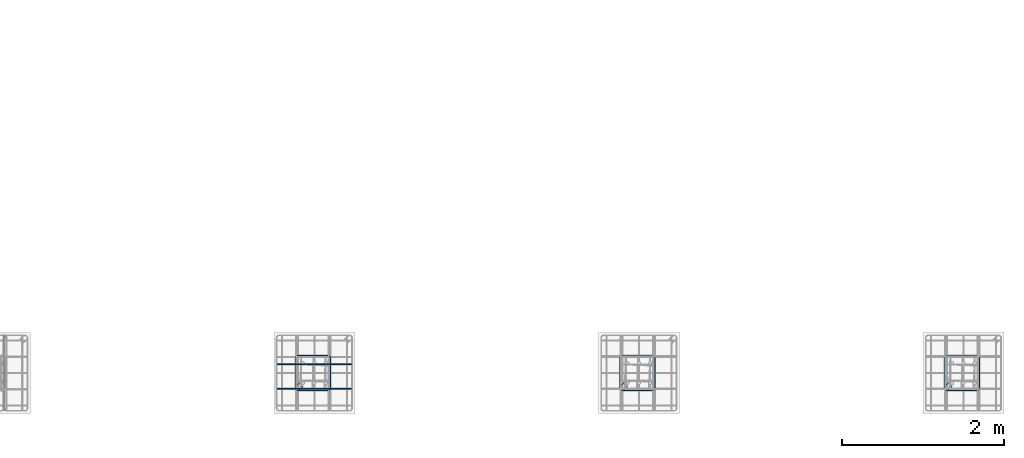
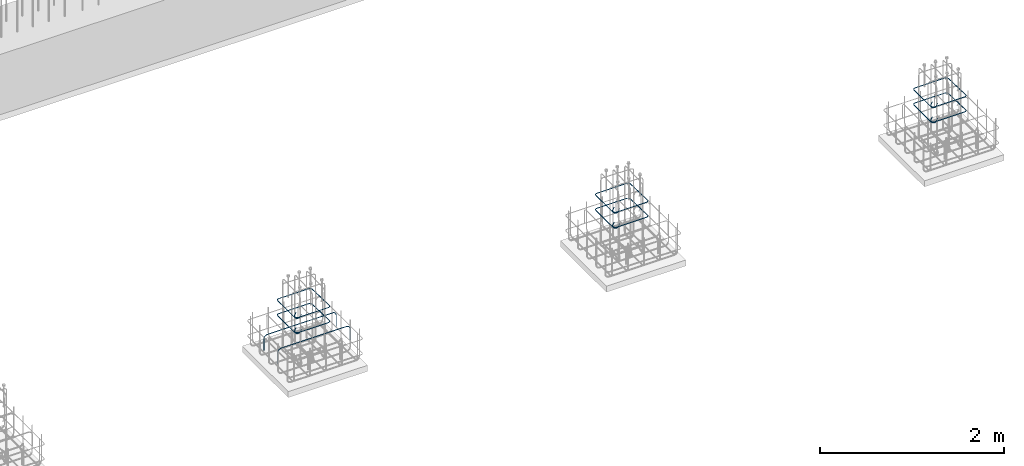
# One storey, part 12 of 12: 4 reinforcing bars.
"""IFC4X3_ADD2 building model written with IfcOpenShell, lengths in millimetres."""

from ifc_helpers import new_model, entity, si_unit, converted_unit, derived_unit, direction, frame, origin, place, context, subcontext, project, spatial, material, type_object, element, save


model = new_model("IFC4X3_ADD2")

# Units and contexts
model_context = context("Model", 3, precision=0.01, world=origin(), true_north=direction((6.123233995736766e-17, 1.0)))
plan_context = context("Plan", 3, precision=0.01, world=origin(), true_north=direction((6.123233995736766e-17, 1.0)))
body_context = subcontext(model_context, "Body", "Model", "MODEL_VIEW")
ifc_project = project(units=[si_unit("LENGTHUNIT", "METRE", prefix="MILLI"), converted_unit("PLANEANGLEUNIT", "DEGREE", entity("IfcPlaneAngleMeasure", 0.017453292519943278), si_unit("PLANEANGLEUNIT", "RADIAN"), dimensions=[0, 0, 0, 0, 0, 0, 0]), si_unit("AREAUNIT", "SQUARE_METRE"), si_unit("VOLUMEUNIT", "CUBIC_METRE"), derived_unit("THERMALTRANSMITTANCEUNIT", [(si_unit("MASSUNIT", "GRAM", prefix="KILO"), 1), (si_unit("THERMODYNAMICTEMPERATUREUNIT", "KELVIN"), -1), (si_unit("TIMEUNIT", "SECOND"), -3)]), derived_unit("USERDEFINED", [(si_unit("MASSUNIT", "GRAM", prefix="KILO"), 1), (si_unit("THERMODYNAMICTEMPERATUREUNIT", "KELVIN"), -1), (si_unit("TIMEUNIT", "SECOND"), -2)]), derived_unit("THERMALRESISTANCEUNIT", [(si_unit("MASSUNIT", "GRAM", prefix="KILO"), -1), (si_unit("TIMEUNIT", "SECOND"), 3), (si_unit("THERMODYNAMICTEMPERATUREUNIT", "KELVIN"), 1)]), si_unit("MASSUNIT", "GRAM", prefix="KILO"), derived_unit("MOMENTOFINERTIAUNIT", [(si_unit("LENGTHUNIT", "METRE"), 4)]), derived_unit("LINEARFORCEUNIT", [(si_unit("MASSUNIT", "GRAM", prefix="KILO"), 1), (si_unit("TIMEUNIT", "SECOND"), -2)]), derived_unit("WARPINGCONSTANTUNIT", [(si_unit("LENGTHUNIT", "METRE"), 6)]), si_unit("PRESSUREUNIT", "PASCAL"), derived_unit("MASSDENSITYUNIT", [(si_unit("MASSUNIT", "GRAM", prefix="KILO"), 1), (si_unit("LENGTHUNIT", "METRE"), -3)]), derived_unit("MODULUSOFELASTICITYUNIT", [(si_unit("MASSUNIT", "GRAM", prefix="KILO"), 1), (si_unit("TIMEUNIT", "SECOND"), -2), (si_unit("LENGTHUNIT", "METRE"), -1)]), derived_unit("THERMALEXPANSIONCOEFFICIENTUNIT", [(si_unit("THERMODYNAMICTEMPERATUREUNIT", "KELVIN"), -1)]), derived_unit("VAPORPERMEABILITYUNIT", [(si_unit("LENGTHUNIT", "METRE"), -1), (si_unit("TIMEUNIT", "SECOND"), 1)]), derived_unit("USERDEFINED", [(si_unit("MASSUNIT", "GRAM", prefix="KILO"), 1), (si_unit("TIMEUNIT", "SECOND"), -3), (si_unit("LENGTHUNIT", "METRE"), 3), (si_unit("ELECTRICCURRENTUNIT", "AMPERE"), -2)]), derived_unit("SPECIFICHEATCAPACITYUNIT", [(si_unit("THERMODYNAMICTEMPERATUREUNIT", "KELVIN"), -1), (si_unit("TIMEUNIT", "SECOND"), -2), (si_unit("LENGTHUNIT", "METRE"), 2)]), derived_unit("THERMALCONDUCTANCEUNIT", [(si_unit("MASSUNIT", "GRAM", prefix="KILO"), 1), (si_unit("THERMODYNAMICTEMPERATUREUNIT", "KELVIN"), -1), (si_unit("TIMEUNIT", "SECOND"), -3), (si_unit("LENGTHUNIT", "METRE"), 1)])], contexts=[model_context, plan_context])

# Site, building, storey
site_placement = place(None, origin())
site = spatial("IfcSite", under=ifc_project, at=site_placement, Name="Default", CompositionType="ELEMENT")
building_placement = place(site_placement, origin())
building = spatial("IfcBuilding", under=site, at=building_placement, Name="Complex structure", CompositionType="ELEMENT")
storey_placement = place(building_placement, frame((0.0, 0.0, -1200.0)))
storey = spatial("IfcBuildingStorey", under=building, at=storey_placement, Name="Level -03", CompositionType="ELEMENT", Elevation=-1200.0)

# Reinforcing bars
ifc_material = material(Name="Steel Rebar - B500A, B or C", Category="Unassigned")
reinforcing_bar_type = type_object("IfcReinforcingBarType", Name="Rebar Bar:10mm", PredefinedType="NOTDEFINED")
reinforcing_bar_1_placement = place(storey_placement, origin())
element("IfcReinforcingBar", 1, at=reinforcing_bar_1_placement, inside=storey, type_object=reinforcing_bar_type, material=ifc_material, Name="Rebar Bar:10mm : Shape 21", ObjectType="Rebar Bar:10mm", context=body_context, shape_type="AdvancedSweptSolid", body=[
    entity("IfcSweptDiskSolid", entity("IfcCompositeCurve", [entity("IfcCompositeCurveSegment", "CONTINUOUS", True, entity("IfcPolyline", [entity("IfcCartesianPoint", [-8691.348637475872, -1476.1953828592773, 167.0]), entity("IfcCartesianPoint", [-8691.348637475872, -1476.1953828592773, 316.0])])), entity("IfcCompositeCurveSegment", "CONTINUOUS", True, entity("IfcTrimmedCurve", entity("IfcCircle", entity("IfcAxis2Placement3D", entity("IfcCartesianPoint", [-8736.34863106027, -1476.1713536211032, 316.0]), entity("IfcDirection", [-0.0005339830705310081, -0.99999985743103, 0.0]), entity("IfcDirection", [0.0, 0.0, 1.0])), 45.0), [entity("IfcParameterValue", 269.9999999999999)], [entity("IfcParameterValue", 360.00000000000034)], True, "PARAMETER")), entity("IfcCompositeCurveSegment", "CONTINUOUS", True, entity("IfcPolyline", [entity("IfcCartesianPoint", [-8736.34863106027, -1476.1713536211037, 361.0]), entity("IfcCartesianPoint", [-9554.348255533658, -1475.73455560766, 361.0])])), entity("IfcCompositeCurveSegment", "CONTINUOUS", True, entity("IfcTrimmedCurve", entity("IfcCircle", entity("IfcAxis2Placement3D", entity("IfcCartesianPoint", [-9554.348255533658, -1475.73455560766, 316.0]), entity("IfcDirection", [-0.0005339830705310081, -0.99999985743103, 0.0]), entity("IfcDirection", [-0.99999985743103, 0.0005339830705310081, 0.0])), 45.0), [entity("IfcParameterValue", 269.9999999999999)], [entity("IfcParameterValue", 360.00000000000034)], True, "PARAMETER")), entity("IfcCompositeCurveSegment", "CONTINUOUS", True, entity("IfcPolyline", [entity("IfcCartesianPoint", [-9599.348249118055, -1475.710526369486, 316.0]), entity("IfcCartesianPoint", [-9599.348249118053, -1475.710526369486, 167.0])]))], False), 5.0, None, 0.0, 183.00000000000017),
    entity("IfcSweptDiskSolid", entity("IfcCompositeCurve", [entity("IfcCompositeCurveSegment", "CONTINUOUS", True, entity("IfcPolyline", [entity("IfcCartesianPoint", [-8691.188442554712, -1176.1954256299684, 167.0]), entity("IfcCartesianPoint", [-8691.188442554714, -1176.1954256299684, 316.0])])), entity("IfcCompositeCurveSegment", "CONTINUOUS", True, entity("IfcTrimmedCurve", entity("IfcCircle", entity("IfcAxis2Placement3D", entity("IfcCartesianPoint", [-8736.18843613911, -1176.1713963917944, 316.0]), entity("IfcDirection", [-0.0005339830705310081, -0.99999985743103, 0.0]), entity("IfcDirection", [0.0, 0.0, 1.0])), 45.0), [entity("IfcParameterValue", 269.9999999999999)], [entity("IfcParameterValue", 360.00000000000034)], True, "PARAMETER")), entity("IfcCompositeCurveSegment", "CONTINUOUS", True, entity("IfcPolyline", [entity("IfcCartesianPoint", [-8736.18843613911, -1176.1713963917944, 361.0]), entity("IfcCartesianPoint", [-9554.188060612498, -1175.7345983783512, 361.0])])), entity("IfcCompositeCurveSegment", "CONTINUOUS", True, entity("IfcTrimmedCurve", entity("IfcCircle", entity("IfcAxis2Placement3D", entity("IfcCartesianPoint", [-9554.188060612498, -1175.7345983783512, 316.0]), entity("IfcDirection", [-0.0005339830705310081, -0.99999985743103, 0.0]), entity("IfcDirection", [-0.99999985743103, 0.0005339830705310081, 0.0])), 45.0), [entity("IfcParameterValue", 269.9999999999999)], [entity("IfcParameterValue", 360.00000000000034)], True, "PARAMETER")), entity("IfcCompositeCurveSegment", "CONTINUOUS", True, entity("IfcPolyline", [entity("IfcCartesianPoint", [-9599.188054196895, -1175.710569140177, 316.0]), entity("IfcCartesianPoint", [-9599.188054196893, -1175.710569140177, 167.0])]))], False), 5.0, None, 0.0, 183.00000000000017),
])
reinforcing_bar_2_placement = place(storey_placement, origin())
ifc_direction_1 = entity("IfcDirection", [0.0, 0.0, -1.0])
ifc_direction_2 = entity("IfcDirection", [0.0, 0.0, -1.0])
element("IfcReinforcingBar", 2, at=reinforcing_bar_2_placement, inside=storey, type_object=reinforcing_bar_type, material=ifc_material, Name="Rebar Bar:10mm : Shape 52", ObjectType="Rebar Bar:10mm", context=body_context, shape_type="AdvancedSweptSolid", body=[
    entity("IfcSweptDiskSolid", entity("IfcCompositeCurve", [entity("IfcCompositeCurveSegment", "CONTINUOUS", True, entity("IfcPolyline", [entity("IfcCartesianPoint", [-9286.518887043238, -1446.6535005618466, 700.0]), entity("IfcCartesianPoint", [-9328.94529391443, -1489.0799074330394, 700.0])])), entity("IfcCompositeCurveSegment", "CONTINUOUS", True, entity("IfcTrimmedCurve", entity("IfcCircle", entity("IfcAxis2Placement3D", entity("IfcCartesianPoint", [-9350.158497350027, -1467.8667039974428, 700.0]), ifc_direction_1, entity("IfcDirection", [-0.7071067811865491, -0.7071067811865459, 0.0])), 30.000000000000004), [entity("IfcParameterValue", 269.9999999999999)], [entity("IfcParameterValue", 44.99999999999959)], True, "PARAMETER")), entity("IfcCompositeCurveSegment", "CONTINUOUS", True, entity("IfcPolyline", [entity("IfcCartesianPoint", [-9380.158497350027, -1467.8667039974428, 700.0]), entity("IfcCartesianPoint", [-9380.158497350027, -1097.8667039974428, 700.0])])), entity("IfcCompositeCurveSegment", "CONTINUOUS", True, entity("IfcTrimmedCurve", entity("IfcCircle", entity("IfcAxis2Placement3D", entity("IfcCartesianPoint", [-9350.158497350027, -1097.8667039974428, 700.0]), ifc_direction_1, entity("IfcDirection", [0.0, 1.0, 0.0])), 30.000000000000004), [entity("IfcParameterValue", 269.9999999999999)], [entity("IfcParameterValue", 360.00000000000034)], True, "PARAMETER")), entity("IfcCompositeCurveSegment", "CONTINUOUS", True, entity("IfcPolyline", [entity("IfcCartesianPoint", [-9350.158497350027, -1067.8667039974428, 700.0]), entity("IfcCartesianPoint", [-8976.521550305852, -1067.8667039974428, 700.0])])), entity("IfcCompositeCurveSegment", "CONTINUOUS", True, entity("IfcTrimmedCurve", entity("IfcCircle", entity("IfcAxis2Placement3D", entity("IfcCartesianPoint", [-8976.521550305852, -1097.8585947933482, 700.697485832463]), entity("IfcDirection", [0.0, -0.023249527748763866, -0.9997296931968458]), entity("IfcDirection", [1.0, 0.0, 0.0])), 30.000000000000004), [entity("IfcParameterValue", 269.9999999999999)], [entity("IfcParameterValue", 360.00000000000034)], True, "PARAMETER")), entity("IfcCompositeCurveSegment", "CONTINUOUS", True, entity("IfcPolyline", [entity("IfcCartesianPoint", [-8946.521550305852, -1097.8585947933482, 700.697485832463]), entity("IfcCartesianPoint", [-8946.521550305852, -1467.8748132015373, 709.3025141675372])])), entity("IfcCompositeCurveSegment", "CONTINUOUS", True, entity("IfcTrimmedCurve", entity("IfcCircle", entity("IfcAxis2Placement3D", entity("IfcCartesianPoint", [-8976.521550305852, -1467.8748132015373, 709.3025141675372]), entity("IfcDirection", [0.0, -0.023249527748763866, -0.9997296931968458]), entity("IfcDirection", [0.0, -0.9997296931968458, 0.023249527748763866])), 30.000000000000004), [entity("IfcParameterValue", 269.9999999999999)], [entity("IfcParameterValue", 360.00000000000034)], True, "PARAMETER")), entity("IfcCompositeCurveSegment", "CONTINUOUS", True, entity("IfcPolyline", [entity("IfcCartesianPoint", [-8976.521550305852, -1497.8667039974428, 710.0]), entity("IfcCartesianPoint", [-9350.158497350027, -1497.8667039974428, 710.0])])), entity("IfcCompositeCurveSegment", "CONTINUOUS", True, entity("IfcTrimmedCurve", entity("IfcCircle", entity("IfcAxis2Placement3D", entity("IfcCartesianPoint", [-9350.158497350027, -1467.8667039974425, 710.0]), ifc_direction_1, entity("IfcDirection", [-1.0, 0.0, 0.0])), 30.000000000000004), [entity("IfcParameterValue", 269.9999999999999)], [entity("IfcParameterValue", 44.99999999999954)], True, "PARAMETER")), entity("IfcCompositeCurveSegment", "CONTINUOUS", True, entity("IfcPolyline", [entity("IfcCartesianPoint", [-9371.371700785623, -1446.6535005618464, 710.0]), entity("IfcCartesianPoint", [-9328.94529391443, -1404.2270936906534, 710.0])]))], False), 5.0, None, 0.0, 546.0000000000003),
    entity("IfcSweptDiskSolid", entity("IfcCompositeCurve", [entity("IfcCompositeCurveSegment", "CONTINUOUS", True, entity("IfcPolyline", [entity("IfcCartesianPoint", [-9286.518887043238, -1446.6535005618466, 500.0]), entity("IfcCartesianPoint", [-9328.94529391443, -1489.0799074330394, 500.0])])), entity("IfcCompositeCurveSegment", "CONTINUOUS", True, entity("IfcTrimmedCurve", entity("IfcCircle", entity("IfcAxis2Placement3D", entity("IfcCartesianPoint", [-9350.158497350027, -1467.8667039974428, 500.0]), ifc_direction_2, entity("IfcDirection", [-0.7071067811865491, -0.7071067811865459, 0.0])), 30.000000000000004), [entity("IfcParameterValue", 269.9999999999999)], [entity("IfcParameterValue", 44.99999999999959)], True, "PARAMETER")), entity("IfcCompositeCurveSegment", "CONTINUOUS", True, entity("IfcPolyline", [entity("IfcCartesianPoint", [-9380.158497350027, -1467.8667039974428, 500.0]), entity("IfcCartesianPoint", [-9380.158497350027, -1097.8667039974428, 500.0])])), entity("IfcCompositeCurveSegment", "CONTINUOUS", True, entity("IfcTrimmedCurve", entity("IfcCircle", entity("IfcAxis2Placement3D", entity("IfcCartesianPoint", [-9350.158497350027, -1097.8667039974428, 500.0]), ifc_direction_2, entity("IfcDirection", [0.0, 1.0, 0.0])), 30.000000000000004), [entity("IfcParameterValue", 269.9999999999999)], [entity("IfcParameterValue", 360.00000000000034)], True, "PARAMETER")), entity("IfcCompositeCurveSegment", "CONTINUOUS", True, entity("IfcPolyline", [entity("IfcCartesianPoint", [-9350.158497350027, -1067.8667039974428, 500.0]), entity("IfcCartesianPoint", [-8976.521550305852, -1067.8667039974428, 500.0])])), entity("IfcCompositeCurveSegment", "CONTINUOUS", True, entity("IfcTrimmedCurve", entity("IfcCircle", entity("IfcAxis2Placement3D", entity("IfcCartesianPoint", [-8976.521550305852, -1097.8585947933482, 500.69748583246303]), entity("IfcDirection", [0.0, -0.023249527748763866, -0.9997296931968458]), entity("IfcDirection", [1.0, 0.0, 0.0])), 30.000000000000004), [entity("IfcParameterValue", 269.9999999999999)], [entity("IfcParameterValue", 360.00000000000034)], True, "PARAMETER")), entity("IfcCompositeCurveSegment", "CONTINUOUS", True, entity("IfcPolyline", [entity("IfcCartesianPoint", [-8946.521550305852, -1097.8585947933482, 500.69748583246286]), entity("IfcCartesianPoint", [-8946.521550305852, -1467.8748132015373, 509.3025141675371])])), entity("IfcCompositeCurveSegment", "CONTINUOUS", True, entity("IfcTrimmedCurve", entity("IfcCircle", entity("IfcAxis2Placement3D", entity("IfcCartesianPoint", [-8976.521550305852, -1467.8748132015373, 509.3025141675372]), entity("IfcDirection", [0.0, -0.023249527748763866, -0.9997296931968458]), entity("IfcDirection", [0.0, -0.9997296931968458, 0.023249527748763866])), 30.000000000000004), [entity("IfcParameterValue", 269.9999999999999)], [entity("IfcParameterValue", 360.00000000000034)], True, "PARAMETER")), entity("IfcCompositeCurveSegment", "CONTINUOUS", True, entity("IfcPolyline", [entity("IfcCartesianPoint", [-8976.521550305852, -1497.8667039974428, 510.0]), entity("IfcCartesianPoint", [-9350.158497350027, -1497.8667039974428, 510.0])])), entity("IfcCompositeCurveSegment", "CONTINUOUS", True, entity("IfcTrimmedCurve", entity("IfcCircle", entity("IfcAxis2Placement3D", entity("IfcCartesianPoint", [-9350.158497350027, -1467.8667039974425, 510.0]), ifc_direction_2, entity("IfcDirection", [-1.0, 0.0, 0.0])), 30.000000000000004), [entity("IfcParameterValue", 269.9999999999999)], [entity("IfcParameterValue", 44.99999999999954)], True, "PARAMETER")), entity("IfcCompositeCurveSegment", "CONTINUOUS", True, entity("IfcPolyline", [entity("IfcCartesianPoint", [-9371.371700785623, -1446.6535005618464, 510.0]), entity("IfcCartesianPoint", [-9328.94529391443, -1404.2270936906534, 510.0])]))], False), 5.0, None, 0.0, 546.0000000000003),
])
reinforcing_bar_3_placement = place(storey_placement, origin())
ifc_direction_3 = entity("IfcDirection", [0.0, 0.0, -1.0])
ifc_direction_4 = entity("IfcDirection", [0.0, 0.0, -1.0])
element("IfcReinforcingBar", 3, at=reinforcing_bar_3_placement, inside=storey, type_object=reinforcing_bar_type, material=ifc_material, Name="Rebar Bar:10mm : Shape 52", ObjectType="Rebar Bar:10mm", context=body_context, shape_type="AdvancedSweptSolid", body=[
    entity("IfcSweptDiskSolid", entity("IfcCompositeCurve", [entity("IfcCompositeCurveSegment", "CONTINUOUS", True, entity("IfcPolyline", [entity("IfcCartesianPoint", [-5286.518887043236, -1446.6535005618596, 700.0]), entity("IfcCartesianPoint", [-5328.9452939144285, -1489.0799074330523, 700.0])])), entity("IfcCompositeCurveSegment", "CONTINUOUS", True, entity("IfcTrimmedCurve", entity("IfcCircle", entity("IfcAxis2Placement3D", entity("IfcCartesianPoint", [-5350.158497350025, -1467.8667039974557, 700.0]), ifc_direction_3, entity("IfcDirection", [-0.7071067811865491, -0.7071067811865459, 0.0])), 30.000000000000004), [entity("IfcParameterValue", 269.9999999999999)], [entity("IfcParameterValue", 44.99999999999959)], True, "PARAMETER")), entity("IfcCompositeCurveSegment", "CONTINUOUS", True, entity("IfcPolyline", [entity("IfcCartesianPoint", [-5380.158497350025, -1467.8667039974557, 700.0]), entity("IfcCartesianPoint", [-5380.158497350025, -1097.8667039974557, 700.0])])), entity("IfcCompositeCurveSegment", "CONTINUOUS", True, entity("IfcTrimmedCurve", entity("IfcCircle", entity("IfcAxis2Placement3D", entity("IfcCartesianPoint", [-5350.158497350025, -1097.8667039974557, 700.0]), ifc_direction_3, entity("IfcDirection", [0.0, 1.0, 0.0])), 30.000000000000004), [entity("IfcParameterValue", 269.9999999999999)], [entity("IfcParameterValue", 360.00000000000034)], True, "PARAMETER")), entity("IfcCompositeCurveSegment", "CONTINUOUS", True, entity("IfcPolyline", [entity("IfcCartesianPoint", [-5350.158497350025, -1067.8667039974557, 700.0]), entity("IfcCartesianPoint", [-4976.521550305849, -1067.8667039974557, 700.0])])), entity("IfcCompositeCurveSegment", "CONTINUOUS", True, entity("IfcTrimmedCurve", entity("IfcCircle", entity("IfcAxis2Placement3D", entity("IfcCartesianPoint", [-4976.521550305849, -1097.8585947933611, 700.697485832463]), entity("IfcDirection", [0.0, -0.023249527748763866, -0.9997296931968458]), entity("IfcDirection", [1.0, 0.0, 0.0])), 30.000000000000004), [entity("IfcParameterValue", 269.9999999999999)], [entity("IfcParameterValue", 360.00000000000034)], True, "PARAMETER")), entity("IfcCompositeCurveSegment", "CONTINUOUS", True, entity("IfcPolyline", [entity("IfcCartesianPoint", [-4946.521550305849, -1097.8585947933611, 700.697485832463]), entity("IfcCartesianPoint", [-4946.521550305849, -1467.8748132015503, 709.3025141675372])])), entity("IfcCompositeCurveSegment", "CONTINUOUS", True, entity("IfcTrimmedCurve", entity("IfcCircle", entity("IfcAxis2Placement3D", entity("IfcCartesianPoint", [-4976.521550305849, -1467.8748132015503, 709.3025141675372]), entity("IfcDirection", [0.0, -0.023249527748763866, -0.9997296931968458]), entity("IfcDirection", [0.0, -0.9997296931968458, 0.023249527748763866])), 30.000000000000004), [entity("IfcParameterValue", 269.9999999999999)], [entity("IfcParameterValue", 360.00000000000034)], True, "PARAMETER")), entity("IfcCompositeCurveSegment", "CONTINUOUS", True, entity("IfcPolyline", [entity("IfcCartesianPoint", [-4976.521550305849, -1497.8667039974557, 710.0]), entity("IfcCartesianPoint", [-5350.158497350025, -1497.8667039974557, 710.0])])), entity("IfcCompositeCurveSegment", "CONTINUOUS", True, entity("IfcTrimmedCurve", entity("IfcCircle", entity("IfcAxis2Placement3D", entity("IfcCartesianPoint", [-5350.158497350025, -1467.8667039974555, 710.0]), ifc_direction_3, entity("IfcDirection", [-1.0, 0.0, 0.0])), 30.000000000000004), [entity("IfcParameterValue", 269.9999999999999)], [entity("IfcParameterValue", 44.99999999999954)], True, "PARAMETER")), entity("IfcCompositeCurveSegment", "CONTINUOUS", True, entity("IfcPolyline", [entity("IfcCartesianPoint", [-5371.37170078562, -1446.6535005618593, 710.0]), entity("IfcCartesianPoint", [-5328.9452939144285, -1404.2270936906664, 710.0])]))], False), 5.0, None, 0.0, 546.0000000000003),
    entity("IfcSweptDiskSolid", entity("IfcCompositeCurve", [entity("IfcCompositeCurveSegment", "CONTINUOUS", True, entity("IfcPolyline", [entity("IfcCartesianPoint", [-5286.518887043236, -1446.6535005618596, 500.0]), entity("IfcCartesianPoint", [-5328.9452939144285, -1489.0799074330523, 500.0])])), entity("IfcCompositeCurveSegment", "CONTINUOUS", True, entity("IfcTrimmedCurve", entity("IfcCircle", entity("IfcAxis2Placement3D", entity("IfcCartesianPoint", [-5350.158497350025, -1467.8667039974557, 500.0]), ifc_direction_4, entity("IfcDirection", [-0.7071067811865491, -0.7071067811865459, 0.0])), 30.000000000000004), [entity("IfcParameterValue", 269.9999999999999)], [entity("IfcParameterValue", 44.99999999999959)], True, "PARAMETER")), entity("IfcCompositeCurveSegment", "CONTINUOUS", True, entity("IfcPolyline", [entity("IfcCartesianPoint", [-5380.158497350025, -1467.8667039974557, 500.0]), entity("IfcCartesianPoint", [-5380.158497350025, -1097.8667039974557, 500.0])])), entity("IfcCompositeCurveSegment", "CONTINUOUS", True, entity("IfcTrimmedCurve", entity("IfcCircle", entity("IfcAxis2Placement3D", entity("IfcCartesianPoint", [-5350.158497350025, -1097.8667039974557, 500.0]), ifc_direction_4, entity("IfcDirection", [0.0, 1.0, 0.0])), 30.000000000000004), [entity("IfcParameterValue", 269.9999999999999)], [entity("IfcParameterValue", 360.00000000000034)], True, "PARAMETER")), entity("IfcCompositeCurveSegment", "CONTINUOUS", True, entity("IfcPolyline", [entity("IfcCartesianPoint", [-5350.158497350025, -1067.8667039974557, 500.0]), entity("IfcCartesianPoint", [-4976.521550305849, -1067.8667039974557, 500.0])])), entity("IfcCompositeCurveSegment", "CONTINUOUS", True, entity("IfcTrimmedCurve", entity("IfcCircle", entity("IfcAxis2Placement3D", entity("IfcCartesianPoint", [-4976.521550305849, -1097.8585947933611, 500.69748583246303]), entity("IfcDirection", [0.0, -0.023249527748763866, -0.9997296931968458]), entity("IfcDirection", [1.0, 0.0, 0.0])), 30.000000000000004), [entity("IfcParameterValue", 269.9999999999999)], [entity("IfcParameterValue", 360.00000000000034)], True, "PARAMETER")), entity("IfcCompositeCurveSegment", "CONTINUOUS", True, entity("IfcPolyline", [entity("IfcCartesianPoint", [-4946.521550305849, -1097.8585947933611, 500.69748583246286]), entity("IfcCartesianPoint", [-4946.521550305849, -1467.8748132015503, 509.3025141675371])])), entity("IfcCompositeCurveSegment", "CONTINUOUS", True, entity("IfcTrimmedCurve", entity("IfcCircle", entity("IfcAxis2Placement3D", entity("IfcCartesianPoint", [-4976.521550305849, -1467.8748132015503, 509.3025141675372]), entity("IfcDirection", [0.0, -0.023249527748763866, -0.9997296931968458]), entity("IfcDirection", [0.0, -0.9997296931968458, 0.023249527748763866])), 30.000000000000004), [entity("IfcParameterValue", 269.9999999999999)], [entity("IfcParameterValue", 360.00000000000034)], True, "PARAMETER")), entity("IfcCompositeCurveSegment", "CONTINUOUS", True, entity("IfcPolyline", [entity("IfcCartesianPoint", [-4976.521550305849, -1497.8667039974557, 510.0]), entity("IfcCartesianPoint", [-5350.158497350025, -1497.8667039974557, 510.0])])), entity("IfcCompositeCurveSegment", "CONTINUOUS", True, entity("IfcTrimmedCurve", entity("IfcCircle", entity("IfcAxis2Placement3D", entity("IfcCartesianPoint", [-5350.158497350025, -1467.8667039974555, 510.0]), ifc_direction_4, entity("IfcDirection", [-1.0, 0.0, 0.0])), 30.000000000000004), [entity("IfcParameterValue", 269.9999999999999)], [entity("IfcParameterValue", 44.99999999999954)], True, "PARAMETER")), entity("IfcCompositeCurveSegment", "CONTINUOUS", True, entity("IfcPolyline", [entity("IfcCartesianPoint", [-5371.37170078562, -1446.6535005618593, 510.0]), entity("IfcCartesianPoint", [-5328.9452939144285, -1404.2270936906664, 510.0])]))], False), 5.0, None, 0.0, 546.0000000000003),
])
reinforcing_bar_4_placement = place(storey_placement, origin())
ifc_direction_5 = entity("IfcDirection", [0.0, 0.0, -1.0])
ifc_direction_6 = entity("IfcDirection", [0.0, 0.0, -1.0])
element("IfcReinforcingBar", 4, at=reinforcing_bar_4_placement, inside=storey, type_object=reinforcing_bar_type, material=ifc_material, Name="Rebar Bar:10mm : Shape 52", ObjectType="Rebar Bar:10mm", context=body_context, shape_type="AdvancedSweptSolid", body=[
    entity("IfcSweptDiskSolid", entity("IfcCompositeCurve", [entity("IfcCompositeCurveSegment", "CONTINUOUS", True, entity("IfcPolyline", [entity("IfcCartesianPoint", [-1286.5188870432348, -1446.6535005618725, 700.0]), entity("IfcCartesianPoint", [-1328.9452939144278, -1489.0799074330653, 700.0])])), entity("IfcCompositeCurveSegment", "CONTINUOUS", True, entity("IfcTrimmedCurve", entity("IfcCircle", entity("IfcAxis2Placement3D", entity("IfcCartesianPoint", [-1350.1584973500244, -1467.8667039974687, 700.0]), ifc_direction_5, entity("IfcDirection", [-0.7071067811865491, -0.7071067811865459, 0.0])), 30.000000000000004), [entity("IfcParameterValue", 269.9999999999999)], [entity("IfcParameterValue", 44.99999999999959)], True, "PARAMETER")), entity("IfcCompositeCurveSegment", "CONTINUOUS", True, entity("IfcPolyline", [entity("IfcCartesianPoint", [-1380.1584973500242, -1467.8667039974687, 700.0]), entity("IfcCartesianPoint", [-1380.1584973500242, -1097.8667039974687, 700.0])])), entity("IfcCompositeCurveSegment", "CONTINUOUS", True, entity("IfcTrimmedCurve", entity("IfcCircle", entity("IfcAxis2Placement3D", entity("IfcCartesianPoint", [-1350.1584973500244, -1097.8667039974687, 700.0]), ifc_direction_5, entity("IfcDirection", [0.0, 1.0, 0.0])), 30.000000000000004), [entity("IfcParameterValue", 269.9999999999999)], [entity("IfcParameterValue", 360.00000000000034)], True, "PARAMETER")), entity("IfcCompositeCurveSegment", "CONTINUOUS", True, entity("IfcPolyline", [entity("IfcCartesianPoint", [-1350.1584973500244, -1067.8667039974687, 700.0]), entity("IfcCartesianPoint", [-976.5215503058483, -1067.8667039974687, 700.0])])), entity("IfcCompositeCurveSegment", "CONTINUOUS", True, entity("IfcTrimmedCurve", entity("IfcCircle", entity("IfcAxis2Placement3D", entity("IfcCartesianPoint", [-976.5215503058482, -1097.858594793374, 700.697485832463]), entity("IfcDirection", [0.0, -0.023249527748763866, -0.9997296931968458]), entity("IfcDirection", [1.0, 0.0, 0.0])), 30.000000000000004), [entity("IfcParameterValue", 269.9999999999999)], [entity("IfcParameterValue", 360.00000000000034)], True, "PARAMETER")), entity("IfcCompositeCurveSegment", "CONTINUOUS", True, entity("IfcPolyline", [entity("IfcCartesianPoint", [-946.5215503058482, -1097.858594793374, 700.697485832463]), entity("IfcCartesianPoint", [-946.5215503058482, -1467.8748132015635, 709.3025141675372])])), entity("IfcCompositeCurveSegment", "CONTINUOUS", True, entity("IfcTrimmedCurve", entity("IfcCircle", entity("IfcAxis2Placement3D", entity("IfcCartesianPoint", [-976.5215503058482, -1467.8748132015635, 709.3025141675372]), entity("IfcDirection", [0.0, -0.023249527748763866, -0.9997296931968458]), entity("IfcDirection", [0.0, -0.9997296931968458, 0.023249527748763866])), 30.000000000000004), [entity("IfcParameterValue", 269.9999999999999)], [entity("IfcParameterValue", 360.00000000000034)], True, "PARAMETER")), entity("IfcCompositeCurveSegment", "CONTINUOUS", True, entity("IfcPolyline", [entity("IfcCartesianPoint", [-976.5215503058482, -1497.8667039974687, 710.0]), entity("IfcCartesianPoint", [-1350.1584973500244, -1497.8667039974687, 710.0])])), entity("IfcCompositeCurveSegment", "CONTINUOUS", True, entity("IfcTrimmedCurve", entity("IfcCircle", entity("IfcAxis2Placement3D", entity("IfcCartesianPoint", [-1350.1584973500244, -1467.8667039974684, 710.0]), ifc_direction_5, entity("IfcDirection", [-1.0, 0.0, 0.0])), 30.000000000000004), [entity("IfcParameterValue", 269.9999999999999)], [entity("IfcParameterValue", 44.99999999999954)], True, "PARAMETER")), entity("IfcCompositeCurveSegment", "CONTINUOUS", True, entity("IfcPolyline", [entity("IfcCartesianPoint", [-1371.3717007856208, -1446.6535005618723, 710.0]), entity("IfcCartesianPoint", [-1328.945293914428, -1404.2270936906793, 710.0])]))], False), 5.0, None, 0.0, 546.0000000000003),
    entity("IfcSweptDiskSolid", entity("IfcCompositeCurve", [entity("IfcCompositeCurveSegment", "CONTINUOUS", True, entity("IfcPolyline", [entity("IfcCartesianPoint", [-1286.5188870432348, -1446.6535005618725, 500.0]), entity("IfcCartesianPoint", [-1328.9452939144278, -1489.0799074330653, 500.0])])), entity("IfcCompositeCurveSegment", "CONTINUOUS", True, entity("IfcTrimmedCurve", entity("IfcCircle", entity("IfcAxis2Placement3D", entity("IfcCartesianPoint", [-1350.1584973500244, -1467.8667039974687, 500.0]), ifc_direction_6, entity("IfcDirection", [-0.7071067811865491, -0.7071067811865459, 0.0])), 30.000000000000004), [entity("IfcParameterValue", 269.9999999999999)], [entity("IfcParameterValue", 44.99999999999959)], True, "PARAMETER")), entity("IfcCompositeCurveSegment", "CONTINUOUS", True, entity("IfcPolyline", [entity("IfcCartesianPoint", [-1380.1584973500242, -1467.8667039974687, 500.0]), entity("IfcCartesianPoint", [-1380.1584973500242, -1097.8667039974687, 500.0])])), entity("IfcCompositeCurveSegment", "CONTINUOUS", True, entity("IfcTrimmedCurve", entity("IfcCircle", entity("IfcAxis2Placement3D", entity("IfcCartesianPoint", [-1350.1584973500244, -1097.8667039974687, 500.0]), ifc_direction_6, entity("IfcDirection", [0.0, 1.0, 0.0])), 30.000000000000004), [entity("IfcParameterValue", 269.9999999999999)], [entity("IfcParameterValue", 360.00000000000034)], True, "PARAMETER")), entity("IfcCompositeCurveSegment", "CONTINUOUS", True, entity("IfcPolyline", [entity("IfcCartesianPoint", [-1350.1584973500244, -1067.8667039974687, 500.0]), entity("IfcCartesianPoint", [-976.5215503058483, -1067.8667039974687, 500.0])])), entity("IfcCompositeCurveSegment", "CONTINUOUS", True, entity("IfcTrimmedCurve", entity("IfcCircle", entity("IfcAxis2Placement3D", entity("IfcCartesianPoint", [-976.5215503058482, -1097.858594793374, 500.69748583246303]), entity("IfcDirection", [0.0, -0.023249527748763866, -0.9997296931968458]), entity("IfcDirection", [1.0, 0.0, 0.0])), 30.000000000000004), [entity("IfcParameterValue", 269.9999999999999)], [entity("IfcParameterValue", 360.00000000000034)], True, "PARAMETER")), entity("IfcCompositeCurveSegment", "CONTINUOUS", True, entity("IfcPolyline", [entity("IfcCartesianPoint", [-946.5215503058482, -1097.858594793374, 500.69748583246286]), entity("IfcCartesianPoint", [-946.5215503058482, -1467.8748132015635, 509.3025141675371])])), entity("IfcCompositeCurveSegment", "CONTINUOUS", True, entity("IfcTrimmedCurve", entity("IfcCircle", entity("IfcAxis2Placement3D", entity("IfcCartesianPoint", [-976.5215503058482, -1467.8748132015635, 509.3025141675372]), entity("IfcDirection", [0.0, -0.023249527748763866, -0.9997296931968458]), entity("IfcDirection", [0.0, -0.9997296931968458, 0.023249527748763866])), 30.000000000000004), [entity("IfcParameterValue", 269.9999999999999)], [entity("IfcParameterValue", 360.00000000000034)], True, "PARAMETER")), entity("IfcCompositeCurveSegment", "CONTINUOUS", True, entity("IfcPolyline", [entity("IfcCartesianPoint", [-976.5215503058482, -1497.8667039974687, 510.0]), entity("IfcCartesianPoint", [-1350.1584973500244, -1497.8667039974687, 510.0])])), entity("IfcCompositeCurveSegment", "CONTINUOUS", True, entity("IfcTrimmedCurve", entity("IfcCircle", entity("IfcAxis2Placement3D", entity("IfcCartesianPoint", [-1350.1584973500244, -1467.8667039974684, 510.0]), ifc_direction_6, entity("IfcDirection", [-1.0, 0.0, 0.0])), 30.000000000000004), [entity("IfcParameterValue", 269.9999999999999)], [entity("IfcParameterValue", 44.99999999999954)], True, "PARAMETER")), entity("IfcCompositeCurveSegment", "CONTINUOUS", True, entity("IfcPolyline", [entity("IfcCartesianPoint", [-1371.3717007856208, -1446.6535005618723, 510.0]), entity("IfcCartesianPoint", [-1328.945293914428, -1404.2270936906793, 510.0])]))], False), 5.0, None, 0.0, 546.0000000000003),
])

save(model, "model.ifc")
